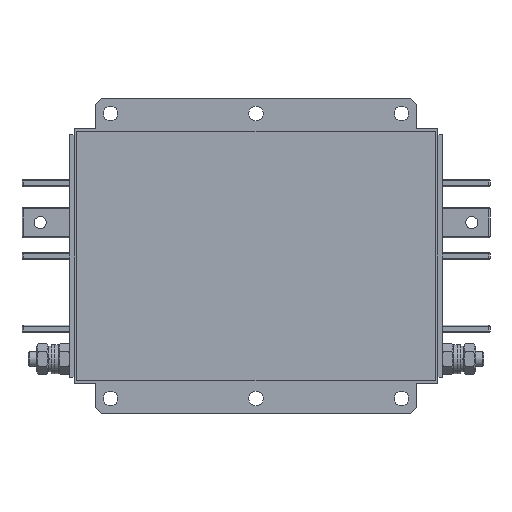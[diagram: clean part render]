
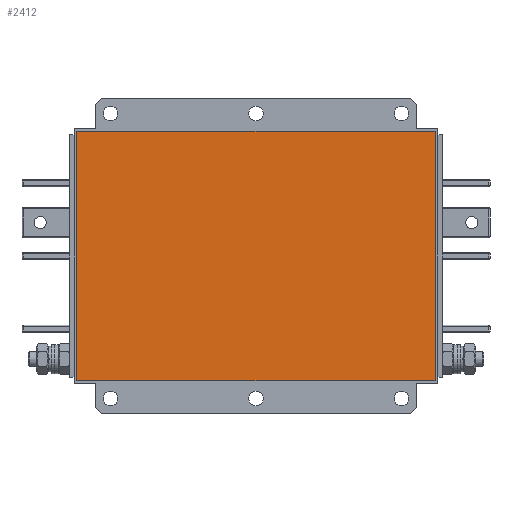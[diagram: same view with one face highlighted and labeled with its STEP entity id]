
A CAD part, front view. The second image highlights one B-rep face of the part: STEP entity #2412.
In plain terms, the highlighted planar face has unit normal (0, -1, 0).
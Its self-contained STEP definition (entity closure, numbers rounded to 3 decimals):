
#587 = CARTESIAN_POINT ( 'NONE',  ( 148., 0., -103. ) ) ;
#986 = VERTEX_POINT ( 'NONE', #6848 ) ;
#1026 = DIRECTION ( 'NONE',  ( 0., -1., 0. ) ) ;
#1587 = LINE ( 'NONE', #4387, #8167 ) ;
#1717 = FACE_OUTER_BOUND ( 'NONE', #5828, .T. ) ;
#2079 = DIRECTION ( 'NONE',  ( 1., 0., 0. ) ) ;
#2316 = EDGE_CURVE ( 'NONE', #5779, #3288, #1587, .T. ) ;
#2412 = ADVANCED_FACE ( 'NONE', ( #1717 ), #4514, .T. ) ;
#2718 = DIRECTION ( 'NONE',  ( -1., 0., 0. ) ) ;
#3110 = VECTOR ( 'NONE', #2718, 1000. ) ;
#3288 = VERTEX_POINT ( 'NONE', #7972 ) ;
#3386 = DIRECTION ( 'NONE',  ( 0., 0., -1. ) ) ;
#3819 = DIRECTION ( 'NONE',  ( 0., 0., -1. ) ) ;
#4387 = CARTESIAN_POINT ( 'NONE',  ( -148., 0., -103. ) ) ;
#4514 = PLANE ( 'NONE',  #6409 ) ;
#4756 = VERTEX_POINT ( 'NONE', #5913 ) ;
#4881 = ORIENTED_EDGE ( 'NONE', *, *, #2316, .F. ) ;
#4925 = ORIENTED_EDGE ( 'NONE', *, *, #7433, .F. ) ;
#4958 = ORIENTED_EDGE ( 'NONE', *, *, #8920, .F. ) ;
#4977 = VECTOR ( 'NONE', #3386, 1000. ) ;
#5017 = EDGE_CURVE ( 'NONE', #3288, #986, #5574, .T. ) ;
#5021 = ORIENTED_EDGE ( 'NONE', *, *, #5017, .F. ) ;
#5152 = VECTOR ( 'NONE', #2079, 1000. ) ;
#5574 = LINE ( 'NONE', #8371, #5152 ) ;
#5779 = VERTEX_POINT ( 'NONE', #6020 ) ;
#5828 = EDGE_LOOP ( 'NONE', ( #4881, #4925, #4958, #5021 ) ) ;
#5913 = CARTESIAN_POINT ( 'NONE',  ( 148., 0., -103. ) ) ;
#6020 = CARTESIAN_POINT ( 'NONE',  ( -148., 0., -103. ) ) ;
#6242 = LINE ( 'NONE', #9002, #3110 ) ;
#6409 = AXIS2_PLACEMENT_3D ( 'NONE', #7353, #1026, #3819 ) ;
#6848 = CARTESIAN_POINT ( 'NONE',  ( 148., 0., 103. ) ) ;
#6912 = LINE ( 'NONE', #587, #4977 ) ;
#7228 = DIRECTION ( 'NONE',  ( 0., 0., 1. ) ) ;
#7353 = CARTESIAN_POINT ( 'NONE',  ( 0., 0., 0. ) ) ;
#7433 = EDGE_CURVE ( 'NONE', #4756, #5779, #6242, .T. ) ;
#7972 = CARTESIAN_POINT ( 'NONE',  ( -148., 0., 103. ) ) ;
#8167 = VECTOR ( 'NONE', #7228, 1000. ) ;
#8371 = CARTESIAN_POINT ( 'NONE',  ( 148., 0., 103. ) ) ;
#8920 = EDGE_CURVE ( 'NONE', #986, #4756, #6912, .T. ) ;
#9002 = CARTESIAN_POINT ( 'NONE',  ( 148., 0., -103. ) ) ;
